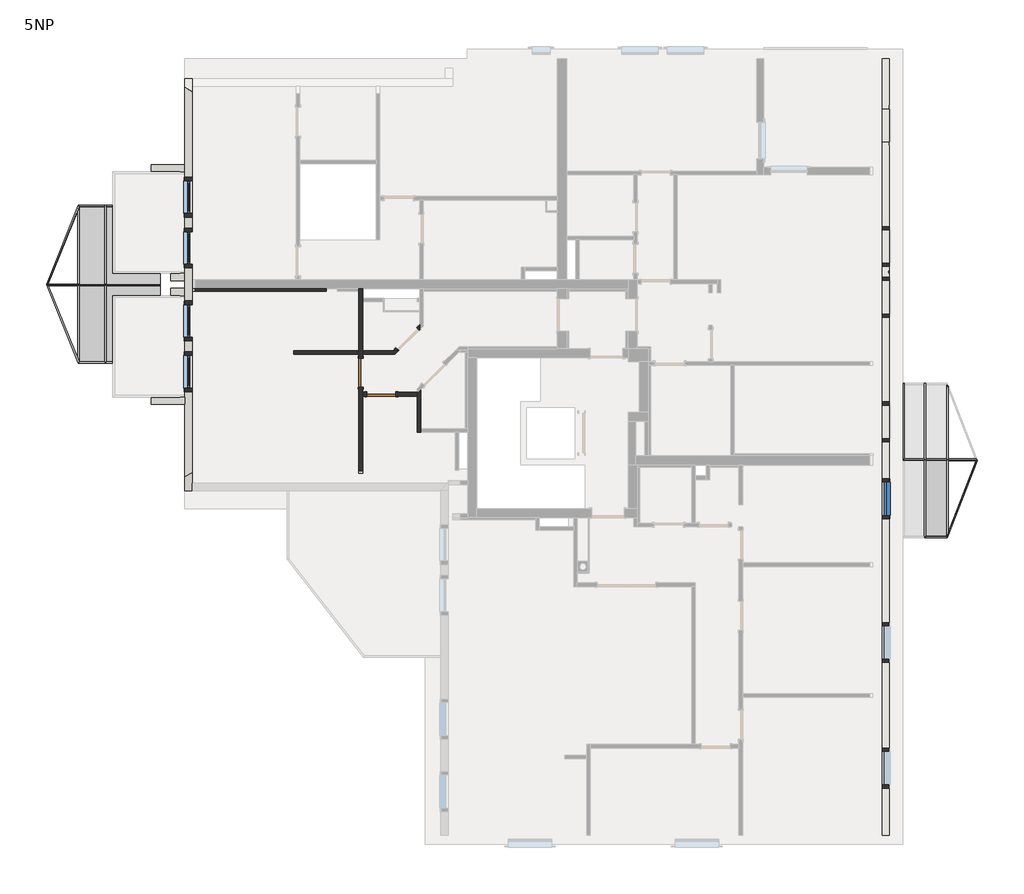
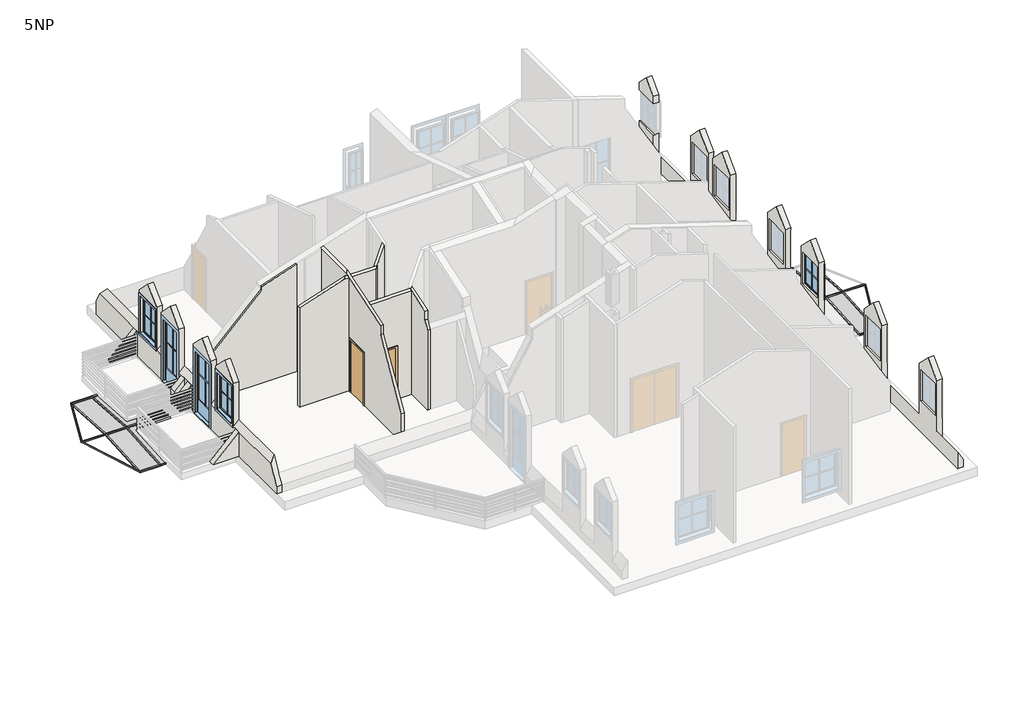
# One storey, part 2 of 4: 23 members, 13 walls, 5 plates, 5 windows, 2 doors.
"""IFC4 building model written with IfcOpenShell, lengths in millimetres."""

from ifc_helpers import new_model, si_unit, frame, origin, place, context, project, spatial, polyline, outline, extrude, faceted_brep, transform, mapped, element, save
from components import sd_800x2000_6a16926d, rectangular_mullion_40_40_c07c6f16, rectangular_mullion_40_40_c2750e26, rectangular_mullion_40_40_e33aa6b6, rectangular_mullion_40_40_65788530, rectangular_mullion_40_40_b48b72c3, rectangular_mullion_40_40_37a0d8a2, rectangular_mullion_40_40_590cdca0, rectangular_mullion_40_40_604e859a, rectangular_mullion_40_40_eb6bbd94, rectangular_mullion_40_40_bc456549, rectangular_mullion_40_40_ef17f03d, rectangular_mullion_40_40_d6f90903, rectangular_mullion_40_40_8bbfeddd, rectangular_mullion_40_40_5d815b55, rectangular_mullion_40_40_e56146ee, rectangular_mullion_40_40_14cc0a15, rectangular_mullion_40_40_f4a16c9e, rectangular_mullion_40_40_fbd32b48, rectangular_mullion_40_40_a7a4ca4f, system_panel_system_panel_37f665d0, system_panel_system_panel_7bef43a2, system_panel_system_panel_15dd2017, system_panel_system_panel_e4e5b0d0, system_panel_system_panel_76da7413, standard_window_with_mullions_4ddc0d11, standard_window_with_mullions_4f38f980, window_2_c3f3d78e, window_2_1320fec1

model = new_model("IFC4")

# Units and contexts
model_context = context("Model", 3, world=origin())
ifc_project = project(units=[si_unit("LENGTHUNIT", "METRE", prefix="MILLI")], contexts=[model_context])

# Site, building, storey
site = spatial("IfcSite", under=ifc_project)
building = spatial("IfcBuilding", under=site)
storey = spatial("IfcBuildingStorey", under=building, Name="5NP", Elevation=11800.0)

# Doors
placement = place(None, origin())
sd_800x2000_shape = sd_800x2000_6a16926d(model_context)
element("IfcDoor", 1, ObjectType="JednokridlePlne : SD 800x2000", at=placement, inside=storey, context=model_context, shape_type="MappedRepresentation", body=[
    mapped(sd_800x2000_shape, transform((-5807.1962165, 1908.3946515, 11800.0), x_axis=(0.0, -1.0, 0.0), y_axis=(1.0, 0.0, 0.0), z_axis=(0.0, 0.0, 1.0))),
])
element("IfcDoor", 2, ObjectType="JednokridlePlne : SD 800x2000", at=placement, inside=storey, context=model_context, shape_type="MappedRepresentation", body=[
    mapped(sd_800x2000_shape, transform((-5239.8211798, 1317.6290541, 11800.0), x_axis=(1.0, 0.0, 0.0), y_axis=(0.0, 1.0, 0.0), z_axis=(0.0, 0.0, 1.0))),
])

# Members
rectangular_mullion_40_40_shape = rectangular_mullion_40_40_c07c6f16(model_context)
element("IfcMember", 3, ObjectType="Rectangular Mullion : 40/40", at=placement, inside=storey, context=model_context, shape_type="MappedRepresentation", body=[
    mapped(rectangular_mullion_40_40_shape, transform((-12817.1962165, 4342.6290541, 11681.4726398), x_axis=(0.0, 0.9975640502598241, 0.06975647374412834), y_axis=(0.0, 0.06975647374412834, -0.9975640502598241), z_axis=(-1.0, 0.0, 0.0))),
])
rectangular_mullion_40_40_2_shape = rectangular_mullion_40_40_c2750e26(model_context)
element("IfcMember", 4, ObjectType="Rectangular Mullion : 40/40", at=placement, inside=storey, context=model_context, shape_type="MappedRepresentation", body=[
    mapped(rectangular_mullion_40_40_2_shape, transform((-13567.1962165, 4342.6290541, 11681.4726398), x_axis=(0.0, 0.9975640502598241, 0.06975647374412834), y_axis=(0.0, 0.06975647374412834, -0.9975640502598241), z_axis=(-1.0, 0.0, 0.0))),
])
rectangular_mullion_40_40_3_shape = rectangular_mullion_40_40_e33aa6b6(model_context)
element("IfcMember", 5, ObjectType="Rectangular Mullion : 40/40", at=placement, inside=storey, context=model_context, shape_type="MappedRepresentation", body=[
    mapped(rectangular_mullion_40_40_3_shape, transform((11184.5471242, -507.3709459, 11678.5944754), x_axis=(0.0, -0.9975640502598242, 0.06975647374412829), y_axis=(0.0, -0.06975647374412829, -0.9975640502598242), z_axis=(1.0, 0.0, 0.0))),
])
rectangular_mullion_40_40_4_shape = rectangular_mullion_40_40_65788530(model_context)
element("IfcMember", 6, ObjectType="Rectangular Mullion : 40/40", at=placement, inside=storey, context=model_context, shape_type="MappedRepresentation", body=[
    mapped(rectangular_mullion_40_40_4_shape, transform((10338.0299794, -507.3709459, 11678.5944754), x_axis=(0.0, -0.9975640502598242, 0.06975647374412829), y_axis=(0.0, -0.06975647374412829, -0.9975640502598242), z_axis=(1.0, 0.0, 0.0))),
])
rectangular_mullion_40_40_5_shape = rectangular_mullion_40_40_b48b72c3(model_context)
element("IfcMember", 7, ObjectType="Rectangular Mullion : 40/40", at=placement, inside=storey, context=model_context, shape_type="MappedRepresentation", body=[
    mapped(rectangular_mullion_40_40_5_shape, transform((9725.4168815, -507.3709459, 11678.5944754), x_axis=(0.0, -0.9975640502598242, 0.06975647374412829), y_axis=(0.0, -0.06975647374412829, -0.9975640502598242), z_axis=(1.0, 0.0, 0.0))),
])
rectangular_mullion_40_40_6_shape = rectangular_mullion_40_40_37a0d8a2(model_context)
element("IfcMember", 8, ObjectType="Rectangular Mullion : 40/40", at=placement, inside=storey, context=model_context, shape_type="MappedRepresentation", body=[
    mapped(rectangular_mullion_40_40_6_shape, transform((11184.5112279, -507.3709532, 11678.5944749), x_axis=(0.9999999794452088, 0.00020226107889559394, 1.4143472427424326e-05), y_axis=(0.0, 0.06975647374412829, -0.9975640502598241), z_axis=(-0.000202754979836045, 0.9975640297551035, 0.06975647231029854))),
])
rectangular_mullion_40_40_7_shape = rectangular_mullion_40_40_590cdca0(model_context)
element("IfcMember", 9, ObjectType="Rectangular Mullion : 40/40", at=placement, inside=storey, context=model_context, shape_type="MappedRepresentation", body=[
    mapped(rectangular_mullion_40_40_7_shape, transform((-12837.1962165, 4342.6290541, 11681.4726398), x_axis=(1.0, 0.0, 0.0), y_axis=(0.0, 0.06975647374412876, -0.997564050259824), z_axis=(0.0, 0.997564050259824, 0.06975647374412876))),
])
rectangular_mullion_40_40_8_shape = rectangular_mullion_40_40_604e859a(model_context)
element("IfcMember", 10, ObjectType="Rectangular Mullion : 40/40", at=placement, inside=storey, context=model_context, shape_type="MappedRepresentation", body=[
    mapped(rectangular_mullion_40_40_8_shape, transform((-13587.1962165, 4342.6290541, 11681.4726398), x_axis=(-1.0, 0.0, 0.0), y_axis=(0.0, -0.06975647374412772, -0.9975640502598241), z_axis=(0.0, -0.9975640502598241, 0.06975647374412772))),
])
rectangular_mullion_40_40_9_shape = rectangular_mullion_40_40_eb6bbd94(model_context)
element("IfcMember", 11, ObjectType="Rectangular Mullion : 40/40", at=placement, inside=storey, context=model_context, shape_type="MappedRepresentation", body=[
    mapped(rectangular_mullion_40_40_9_shape, transform((-13587.1962165, 6517.6290541, 11529.3818239), x_axis=(0.0, 0.9975640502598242, -0.06975647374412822), y_axis=(0.0, -0.06975647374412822, -0.9975640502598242), z_axis=(-1.0, 0.0, 0.0))),
])
element("IfcMember", 12, ObjectType="Rectangular Mullion : 40/40", at=placement, inside=storey, context=model_context, shape_type="MappedRepresentation", body=[
    mapped(rectangular_mullion_40_40_shape, transform((-12817.1962165, 6517.6290541, 11529.3818239), x_axis=(0.0, 0.9975640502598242, -0.06975647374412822), y_axis=(0.0, -0.06975647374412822, -0.9975640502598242), z_axis=(-1.0, 0.0, 0.0))),
])
element("IfcMember", 13, ObjectType="Rectangular Mullion : 40/40", at=placement, inside=storey, context=model_context, shape_type="MappedRepresentation", body=[
    mapped(rectangular_mullion_40_40_shape, transform((-11337.1962165, 2167.6290541, 11529.3818239), x_axis=(0.0, -0.9975640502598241, -0.06975647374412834), y_axis=(0.0, 0.06975647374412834, -0.9975640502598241), z_axis=(1.0, 0.0, 0.0))),
])
rectangular_mullion_40_40_10_shape = rectangular_mullion_40_40_bc456549(model_context)
element("IfcMember", 14, ObjectType="Rectangular Mullion : 40/40", at=placement, inside=storey, context=model_context, shape_type="MappedRepresentation", body=[
    mapped(rectangular_mullion_40_40_10_shape, transform((-12857.1962165, 2167.6290541, 11529.3818239), x_axis=(0.0, -0.9975640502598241, -0.06975647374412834), y_axis=(0.0, 0.06975647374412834, -0.9975640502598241), z_axis=(1.0, 0.0, 0.0))),
])
rectangular_mullion_40_40_11_shape = rectangular_mullion_40_40_ef17f03d(model_context)
element("IfcMember", 15, ObjectType="Rectangular Mullion : 40/40", at=placement, inside=storey, context=model_context, shape_type="MappedRepresentation", body=[
    mapped(rectangular_mullion_40_40_11_shape, transform((-13587.2318596, 2167.5948517, 11529.3794322), x_axis=(-0.7206941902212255, -0.6915643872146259, -0.048358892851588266), y_axis=(0.0, 0.06975647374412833, -0.997564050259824), z_axis=(0.6932531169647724, -0.7189386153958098, -0.05027308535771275))),
])
rectangular_mullion_40_40_12_shape = rectangular_mullion_40_40_d6f90903(model_context)
element("IfcMember", 16, ObjectType="Rectangular Mullion : 40/40", at=placement, inside=storey, context=model_context, shape_type="MappedRepresentation", body=[
    mapped(rectangular_mullion_40_40_12_shape, transform((-14465.3914485, 4342.6290633, 11681.4726392), x_axis=(-0.999999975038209, -0.0002228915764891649, 1.5586097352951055e-05), y_axis=(0.0, -0.06975647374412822, -0.9975640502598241), z_axis=(0.0002234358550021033, -0.9975640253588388, 0.0697564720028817))),
])
rectangular_mullion_40_40_13_shape = rectangular_mullion_40_40_8bbfeddd(model_context)
element("IfcMember", 17, ObjectType="Rectangular Mullion : 40/40", at=placement, inside=storey, context=model_context, shape_type="MappedRepresentation", body=[
    mapped(rectangular_mullion_40_40_13_shape, transform((10358.0299794, -507.3709459, 11678.5944754), x_axis=(1.0, 0.0, 0.0), y_axis=(0.0, 0.06975647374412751, -0.9975640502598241), z_axis=(0.0, 0.997564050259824, 0.0697564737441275))),
])
rectangular_mullion_40_40_14_shape = rectangular_mullion_40_40_5d815b55(model_context)
element("IfcMember", 18, ObjectType="Rectangular Mullion : 40/40", at=placement, inside=storey, context=model_context, shape_type="MappedRepresentation", body=[
    mapped(rectangular_mullion_40_40_14_shape, transform((9745.4168815, -507.3709459, 11678.5944754), x_axis=(-1.0, 0.0, 0.0), y_axis=(0.0, -0.0697564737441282, -0.9975640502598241), z_axis=(0.0, -0.997564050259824, 0.06975647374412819))),
])
rectangular_mullion_40_40_15_shape = rectangular_mullion_40_40_e56146ee(model_context)
element("IfcMember", 19, ObjectType="Rectangular Mullion : 40/40", at=placement, inside=storey, context=model_context, shape_type="MappedRepresentation", body=[
    mapped(rectangular_mullion_40_40_15_shape, transform((10358.0299794, -2632.3709459, 11530.0), x_axis=(0.0, -0.9975640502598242, -0.06975647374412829), y_axis=(0.0, 0.06975647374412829, -0.9975640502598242), z_axis=(1.0, 0.0, 0.0))),
])
rectangular_mullion_40_40_16_shape = rectangular_mullion_40_40_14cc0a15(model_context)
element("IfcMember", 20, ObjectType="Rectangular Mullion : 40/40", at=placement, inside=storey, context=model_context, shape_type="MappedRepresentation", body=[
    mapped(rectangular_mullion_40_40_16_shape, transform((9132.8037835, -507.3709459, 11678.5944754), x_axis=(-1.0, 0.0, 0.0), y_axis=(0.0, -0.0697564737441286, -0.9975640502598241), z_axis=(0.0, -0.997564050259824, 0.06975647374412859))),
])
element("IfcMember", 21, ObjectType="Rectangular Mullion : 40/40", at=placement, inside=storey, context=model_context, shape_type="MappedRepresentation", body=[
    mapped(rectangular_mullion_40_40_7_shape, transform((-12837.1962165, 4342.6290541, 11681.4726398), x_axis=(-1.0, 0.0, 0.0), y_axis=(0.0, -0.06975647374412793, -0.9975640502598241), z_axis=(0.0, -0.997564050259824, 0.06975647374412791))),
])
rectangular_mullion_40_40_17_shape = rectangular_mullion_40_40_f4a16c9e(model_context)
element("IfcMember", 22, ObjectType="Rectangular Mullion : 40/40", at=placement, inside=storey, context=model_context, shape_type="MappedRepresentation", body=[
    mapped(rectangular_mullion_40_40_17_shape, transform((-13587.1962165, 4342.6290541, 11681.4726398), x_axis=(1.0, 0.0, 0.0), y_axis=(0.0, 0.06975647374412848, -0.9975640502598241), z_axis=(0.0, 0.997564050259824, 0.06975647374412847))),
])
rectangular_mullion_40_40_18_shape = rectangular_mullion_40_40_fbd32b48(model_context)
element("IfcMember", 23, ObjectType="Rectangular Mullion : 40/40", at=placement, inside=storey, context=model_context, shape_type="MappedRepresentation", body=[
    mapped(rectangular_mullion_40_40_18_shape, transform((-14465.4329195, 4342.6290541, 11681.4726398), x_axis=(0.0, 0.9975640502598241, 0.06975647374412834), y_axis=(0.0, 0.06975647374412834, -0.9975640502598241), z_axis=(-1.0, 0.0, 0.0))),
])
rectangular_mullion_40_40_19_shape = rectangular_mullion_40_40_a7a4ca4f(model_context)
element("IfcMember", 24, ObjectType="Rectangular Mullion : 40/40", at=placement, inside=storey, context=model_context, shape_type="MappedRepresentation", body=[
    mapped(rectangular_mullion_40_40_19_shape, transform((10358.0299794, -507.3709459, 11678.5944754), x_axis=(-1.0, 0.0, 0.0), y_axis=(0.0, -0.06975647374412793, -0.9975640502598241), z_axis=(0.0, -0.9975640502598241, 0.06975647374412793))),
])
element("IfcMember", 25, ObjectType="Rectangular Mullion : 40/40", at=placement, inside=storey, context=model_context, shape_type="MappedRepresentation", body=[
    mapped(rectangular_mullion_40_40_14_shape, transform((9745.4168815, -507.3709459, 11678.5944754), x_axis=(1.0, 0.0, 0.0), y_axis=(0.0, 0.06975647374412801, -0.9975640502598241), z_axis=(0.0, 0.997564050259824, 0.069756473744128))),
])

# Plates
system_panel_system_panel_shape = system_panel_system_panel_37f665d0(model_context)
element("IfcPlate", 26, ObjectType="System Panel : System Panel", at=placement, inside=storey, context=model_context, shape_type="MappedRepresentation", body=[
    mapped(system_panel_system_panel_shape, transform((-12077.1962165, 6477.7264921, 11532.1720828), x_axis=(-1.0, 0.0, 0.0), y_axis=(0.0, -0.06975647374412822, -0.9975640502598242), z_axis=(0.0, -0.9975640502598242, 0.06975647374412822))),
])
system_panel_system_panel_2_shape = system_panel_system_panel_7bef43a2(model_context)
element("IfcPlate", 27, ObjectType="System Panel : System Panel", at=placement, inside=storey, context=model_context, shape_type="MappedRepresentation", body=[
    mapped(system_panel_system_panel_2_shape, transform((-12077.1962165, 2207.5316161, 11532.1720828), x_axis=(1.0, 0.0, 0.0), y_axis=(0.0, 0.06975647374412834, -0.9975640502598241), z_axis=(0.0, 0.9975640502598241, 0.06975647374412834))),
])
system_panel_system_panel_3_shape = system_panel_system_panel_15dd2017(model_context)
element("IfcPlate", 28, ObjectType="System Panel : System Panel", at=placement, inside=storey, context=model_context, shape_type="MappedRepresentation", body=[
    mapped(system_panel_system_panel_3_shape, transform((-13212.1962165, 2207.5316161, 11532.1720828), x_axis=(1.0, 0.0, 0.0), y_axis=(0.0, 0.06975647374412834, -0.9975640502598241), z_axis=(0.0, 0.9975640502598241, 0.06975647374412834))),
])
system_panel_system_panel_4_shape = system_panel_system_panel_e4e5b0d0(model_context)
element("IfcPlate", 29, ObjectType="System Panel : System Panel", at=placement, inside=storey, context=model_context, shape_type="MappedRepresentation", body=[
    mapped(system_panel_system_panel_4_shape, transform((-13212.1962165, 6477.7264921, 11532.1720828), x_axis=(-1.0, 0.0, 0.0), y_axis=(0.0, -0.06975647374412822, -0.9975640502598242), z_axis=(0.0, -0.9975640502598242, 0.06975647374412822))),
])
system_panel_system_panel_5_shape = system_panel_system_panel_76da7413(model_context)
element("IfcPlate", 30, ObjectType="System Panel : System Panel", at=placement, inside=storey, context=model_context, shape_type="MappedRepresentation", body=[
    mapped(system_panel_system_panel_5_shape, transform((10051.7234305, -2592.4683839, 11532.7902589), x_axis=(1.0, 0.0, 0.0), y_axis=(0.0, 0.06975647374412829, -0.9975640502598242), z_axis=(0.0, 0.9975640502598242, 0.06975647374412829))),
])

# Walls
element("IfcWall", 31, ObjectType="Exterior - 150+50mm", at=placement, inside=storey, context=model_context, shape_type="Brep", body=[
    faceted_brep([(-10656.4352243, -1338.1208451, 11800.0), (-10656.4352243, -1338.1208451, 12079.795831), (-10656.4352243, -962.2859339, 12730.7609923), (-10656.4352243, 1037.6290541, 12730.7609923), (-10656.4352243, 1237.6290541, 12730.7609923), (-10656.4352243, 1387.6290541, 12730.7609923), (-10656.4352243, 1387.6290541, 14387.8679656), (-10656.4352243, 1937.6290541, 14937.8679656), (-10656.4352243, 2487.6290541, 14387.8679656), (-10656.4352243, 2487.6290541, 12730.7609923), (-10656.4352243, 2787.6290541, 12730.7609923), (-10656.4352243, 2787.6290541, 14387.8679656), (-10656.4352243, 3337.6290541, 14937.8679656), (-10656.4352243, 3887.6290541, 14387.8679656), (-10656.4352243, 3887.6290541, 12730.7609923), (-10656.4352243, 4037.6290541, 12730.7609923), (-10656.4352243, 4237.6290541, 12730.7609923), (-10656.4352243, 4447.6290541, 12730.7609923), (-10656.4352243, 4647.6290541, 12730.7609923), (-10656.4352243, 4797.6290541, 12730.7609923), (-10656.4352243, 4797.6290541, 14387.8679656), (-10656.4352243, 5347.6290541, 14937.8679656), (-10656.4352243, 5897.6290541, 14387.8679656), (-10656.4352243, 5897.6290541, 12730.7609923), (-10656.4352243, 6197.6290541, 12730.7609923), (-10656.4352243, 6197.6290541, 14387.8679656), (-10656.4352243, 6747.6290541, 14937.8679656), (-10656.4352243, 7297.6290541, 14387.8679656), (-10656.4352243, 7297.6290541, 12730.7609923), (-10656.4352243, 7447.6290541, 12730.7609923), (-10656.4352243, 7647.6290541, 12730.7609923), (-10656.4352243, 9771.3426296, 12730.7609923), (-10656.4352243, 10007.6290541, 12321.5009), (-10656.4352243, 10007.6290541, 11800.0), (-10656.4352243, 7647.6290541, 11800.0), (-10656.4352243, 7447.6290541, 11800.0), (-10656.4352243, 5797.6290541, 11800.0), (-10656.4352243, 5797.6290541, 14200.0), (-10656.4352243, 4897.6290541, 14200.0), (-10656.4352243, 4897.6290541, 11800.0), (-10656.4352243, 4647.6290541, 11800.0), (-10656.4352243, 4447.6290541, 11800.0), (-10656.4352243, 4237.6290541, 11800.0), (-10656.4352243, 4037.6290541, 11800.0), (-10656.4352243, 3782.6290541, 11800.0), (-10656.4352243, 3782.6290541, 14200.0), (-10656.4352243, 2882.6290541, 14200.0), (-10656.4352243, 2882.6290541, 11800.0), (-10656.4352243, 1237.6290541, 11800.0), (-10656.4352243, 1037.6290541, 11800.0), (-10656.4352243, 6297.6290541, 14200.0), (-10656.4352243, 6297.6290541, 12800.0), (-10656.4352243, 7197.6290541, 12800.0), (-10656.4352243, 7197.6290541, 14200.0), (-10656.4352243, 1487.6290541, 12800.0), (-10656.4352243, 2387.6290541, 12800.0), (-10656.4352243, 2387.6290541, 14200.0), (-10656.4352243, 1487.6290541, 14200.0), (-10456.4352243, -1338.1208451, 12079.795831), (-10456.4352243, -1338.1208451, 11800.0), (-10456.4352243, -1138.1208451, 11800.0), (-10456.4352243, 2882.6290541, 11800.0), (-10456.4352243, 2882.6290541, 14200.0), (-10456.4352243, 3782.6290541, 14200.0), (-10456.4352243, 3782.6290541, 11800.0), (-10456.4352243, 4152.6290541, 11800.0), (-10456.4352243, 4217.6290541, 11800.0), (-10456.4352243, 4467.6290541, 11800.0), (-10456.4352243, 4897.6290541, 11800.0), (-10456.4352243, 4897.6290541, 14200.0), (-10456.4352243, 5797.6290541, 14200.0), (-10456.4352243, 5797.6290541, 11800.0), (-10456.4352243, 9807.6290541, 11800.0), (-10456.4352243, 10007.6290541, 11800.0), (-10456.4352243, 10007.6290541, 12321.5009), (-10456.4352243, 9807.6290541, 12667.9110615), (-10456.4352243, 9655.8725758, 12930.7609923), (-10456.4352243, 7297.6290541, 12930.7609923), (-10456.4352243, 7297.6290541, 14387.8679656), (-10456.4352243, 6747.6290541, 14937.8679656), (-10456.4352243, 6197.6290541, 14387.8679656), (-10456.4352243, 6197.6290541, 12930.7609923), (-10456.4352243, 5897.6290541, 12930.7609923), (-10456.4352243, 5897.6290541, 14387.8679656), (-10456.4352243, 5347.6290541, 14937.8679656), (-10456.4352243, 4797.6290541, 14387.8679656), (-10456.4352243, 4797.6290541, 12930.7609923), (-10456.4352243, 4467.6290541, 12930.7609923), (-10456.4352243, 4217.6290541, 12930.7609923), (-10456.4352243, 4152.6290541, 12930.7609923), (-10456.4352243, 3887.6290541, 12930.7609923), (-10456.4352243, 3887.6290541, 14387.8679656), (-10456.4352243, 3337.6290541, 14937.8679656), (-10456.4352243, 2787.6290541, 14387.8679656), (-10456.4352243, 2787.6290541, 12930.7609923), (-10456.4352243, 2487.6290541, 12930.7609923), (-10456.4352243, 2487.6290541, 14387.8679656), (-10456.4352243, 1937.6290541, 14937.8679656), (-10456.4352243, 1387.6290541, 14387.8679656), (-10456.4352243, 1387.6290541, 12930.7609923), (-10456.4352243, -846.8158801, 12930.7609923), (-10456.4352243, -1138.1208451, 12426.2059925), (-10456.4352243, 6297.6290541, 12800.0), (-10456.4352243, 6297.6290541, 14200.0), (-10456.4352243, 7197.6290541, 14200.0), (-10456.4352243, 7197.6290541, 12800.0), (-10456.4352243, 1487.6290541, 12800.0), (-10456.4352243, 1487.6290541, 14200.0), (-10456.4352243, 2387.6290541, 14200.0), (-10456.4352243, 2387.6290541, 12800.0)], [[[0, 1, 2, 3, 4, 5, 6, 7, 8, 9, 10, 11, 12, 13, 14, 15, 16, 17, 18, 19, 20, 21, 22, 23, 24, 25, 26, 27, 28, 29, 30, 31, 32, 33, 34, 35, 36, 37, 38, 39, 40, 41, 42, 43, 44, 45, 46, 47, 48, 49], [50, 51, 52, 53], [54, 55, 56, 57]], [[58, 59, 60, 61, 62, 63, 64, 65, 66, 67, 68, 69, 70, 71, 72, 73, 74, 75, 76, 77, 78, 79, 80, 81, 82, 83, 84, 85, 86, 87, 88, 89, 90, 91, 92, 93, 94, 95, 96, 97, 98, 99, 100, 101], [102, 103, 104, 105], [106, 107, 108, 109]], [[59, 0, 49, 48, 47, 61, 60]], [[33, 73, 72, 71, 36, 35, 34]], [[39, 68, 67, 66, 65, 64, 44, 43, 42, 41, 40]], [[1, 0, 59, 58]], [[33, 32, 74, 73]], [[98, 6, 5, 99]], [[8, 96, 95, 9]], [[93, 11, 10, 94]], [[13, 91, 90, 14]], [[85, 20, 19, 86]], [[22, 83, 82, 23]], [[80, 25, 24, 81]], [[27, 78, 77, 28]], [[28, 77, 76, 31, 30, 29]], [[1, 58, 101, 100, 2]], [[74, 32, 31, 76, 75]], [[24, 23, 82, 81]], [[14, 90, 89, 88, 87, 86, 19, 18, 17, 16, 15]], [[10, 9, 95, 94]], [[99, 5, 4, 3, 2, 100]], [[83, 22, 21, 84]], [[20, 85, 84, 21]], [[78, 27, 26, 79]], [[25, 80, 79, 26]], [[91, 13, 12, 92]], [[11, 93, 92, 12]], [[96, 8, 7, 97]], [[6, 98, 97, 7]], [[38, 69, 68, 39]], [[69, 38, 37, 70]], [[70, 37, 36, 71]], [[102, 51, 50, 103]], [[103, 50, 53, 104]], [[104, 53, 52, 105]], [[51, 102, 105, 52]], [[63, 45, 44, 64]], [[45, 63, 62, 46]], [[46, 62, 61, 47]], [[107, 106, 54, 57]], [[108, 107, 57, 56]], [[109, 108, 56, 55]], [[106, 109, 55, 54]]]),
])
element("IfcWall", 32, ObjectType="Exterior - 150+50mm", at=placement, inside=storey, context=model_context, shape_type="SweptSolid", body=[
    extrude(outline(polyline([(11800.0, -10656.4352243), (12730.7609923, -10656.4352243), (11800.0, -11587.1962165), (11800.0, -10656.4352243)])), frame((0.0, 7447.6290541, 0.0), z_axis=(0.0, 1.0, 0.0), x_axis=(0.0, 0.0, 1.0)), (0.0, 0.0, 1.0), 200.0),
])
element("IfcWall", 33, ObjectType="Exterior - 150+50mm", at=placement, inside=storey, context=model_context, shape_type="Brep", body=[
    faceted_brep([(8557.3155772, 8275.6927772, 12437.9668213), (8557.3155772, 8275.6927772, 13000.0), (8557.3155772, 9175.6927772, 13000.0), (8557.3155772, 9175.6927772, 12437.9668213), (8557.3155772, 9275.6927772, 12437.9668213), (8557.3155772, 10567.6290541, 12437.9668213), (8557.3155772, 10567.6290541, 11800.0), (8557.3155772, -10832.3709459, 11800.0), (8557.3155772, -10832.3709459, 12437.9668213), (8557.3155772, -9532.3709459, 12437.9668213), (8557.3155772, -9532.3709459, 14387.8679656), (8557.3155772, -8982.3709459, 14937.8679656), (8557.3155772, -8432.3709459, 14387.8679656), (8557.3155772, -8432.3709459, 12437.9668213), (8557.3155772, -6074.0530367, 12437.9668213), (8557.3155772, -6074.0530367, 14387.8679656), (8557.3155772, -5524.0530367, 14937.8679656), (8557.3155772, -4974.0530367, 14387.8679656), (8557.3155772, -4974.0530367, 12437.9668213), (8557.3155772, -2113.5367865, 12437.9668213), (8557.3155772, -2113.5367865, 14387.8679656), (8557.3155772, -1563.5367865, 14937.8679656), (8557.3155772, -1013.5367865, 14387.8679656), (8557.3155772, -1013.5367865, 12437.9668213), (8557.3155772, 5.9947187, 12437.9668213), (8557.3155772, 5.9947187, 14387.8679656), (8557.3155772, 555.9947187, 14937.8679656), (8557.3155772, 1105.9947187, 14387.8679656), (8557.3155772, 1105.9947187, 12437.9668213), (8557.3155772, 3438.4530256, 12437.9668213), (8557.3155772, 3438.4530256, 14387.8679656), (8557.3155772, 3988.4530256, 14937.8679656), (8557.3155772, 4538.4530256, 14387.8679656), (8557.3155772, 4538.4530256, 12437.9668213), (8557.3155772, 4838.4530256, 12437.9668213), (8557.3155772, 4838.4530256, 14387.8679656), (8557.3155772, 5388.4530256, 14937.8679656), (8557.3155772, 5938.4530256, 14387.8679656), (8557.3155772, 5938.4530256, 12437.9668213), (8557.3155772, 8175.6927772, 12437.9668213), (8557.3155772, -8532.3709459, 13000.0), (8557.3155772, -8532.3709459, 14200.0), (8557.3155772, -9432.3709459, 14200.0), (8557.3155772, -9432.3709459, 13000.0), (8557.3155772, -5074.0530367, 13000.0), (8557.3155772, -5074.0530367, 14200.0), (8557.3155772, -5974.0530367, 14200.0), (8557.3155772, -5974.0530367, 13000.0), (8557.3155772, -1113.5367865, 13000.0), (8557.3155772, -1113.5367865, 14200.0), (8557.3155772, -2013.5367865, 14200.0), (8557.3155772, -2013.5367865, 13000.0), (8557.3155772, 1005.9947187, 13000.0), (8557.3155772, 1005.9947187, 14200.0), (8557.3155772, 105.9947187, 14200.0), (8557.3155772, 105.9947187, 13000.0), (8557.3155772, 5838.4530256, 13000.0), (8557.3155772, 5838.4530256, 14200.0), (8557.3155772, 4938.4530256, 14200.0), (8557.3155772, 4938.4530256, 13000.0), (8557.3155772, 4438.4530256, 13000.0), (8557.3155772, 4438.4530256, 14200.0), (8557.3155772, 3538.4530256, 14200.0), (8557.3155772, 3538.4530256, 13000.0), (8757.3155772, 9175.6927772, 13000.0), (8757.3155772, 8275.6927772, 13000.0), (8757.3155772, 8275.6927772, 12091.5566597), (8757.3155772, 5938.4530256, 12091.5566597), (8757.3155772, 5938.4530256, 14387.8679656), (8757.3155772, 5388.4530256, 14937.8679656), (8757.3155772, 4838.4530256, 14387.8679656), (8757.3155772, 4838.4530256, 12091.5566597), (8757.3155772, 4746.8963658, 12091.5566597), (8757.3155772, 4688.4530256, 12150.0), (8757.3155772, 4630.0096853, 12091.5566597), (8757.3155772, 4538.4530256, 12091.5566597), (8757.3155772, 4538.4530256, 14387.8679656), (8757.3155772, 3988.4530256, 14937.8679656), (8757.3155772, 3438.4530256, 14387.8679656), (8757.3155772, 3438.4530256, 12091.5566597), (8757.3155772, 1105.9947187, 12091.5566597), (8757.3155772, 1105.9947187, 14387.8679656), (8757.3155772, 555.9947187, 14937.8679656), (8757.3155772, 5.9947187, 14387.8679656), (8757.3155772, 5.9947187, 12091.5566597), (8757.3155772, -1013.5367865, 12091.5566597), (8757.3155772, -1013.5367865, 14387.8679656), (8757.3155772, -1563.5367865, 14937.8679656), (8757.3155772, -2113.5367865, 14387.8679656), (8757.3155772, -2113.5367865, 12091.5566597), (8757.3155772, -4974.0530367, 12091.5566597), (8757.3155772, -4974.0530367, 14387.8679656), (8757.3155772, -5524.0530367, 14937.8679656), (8757.3155772, -6074.0530367, 14387.8679656), (8757.3155772, -6074.0530367, 12091.5566597), (8757.3155772, -8432.3709459, 12091.5566597), (8757.3155772, -8432.3709459, 14387.8679656), (8757.3155772, -8982.3709459, 14937.8679656), (8757.3155772, -9532.3709459, 14387.8679656), (8757.3155772, -9532.3709459, 12091.5566597), (8757.3155772, -10832.3709459, 12091.5566597), (8757.3155772, -10832.3709459, 11800.0), (8757.3155772, 10567.6290541, 11800.0), (8757.3155772, 10567.6290541, 12091.5566597), (8757.3155772, 9175.6927772, 12091.5566597), (8757.3155772, -8532.3709459, 13000.0), (8757.3155772, -9432.3709459, 13000.0), (8757.3155772, -9432.3709459, 14200.0), (8757.3155772, -8532.3709459, 14200.0), (8757.3155772, -5074.0530367, 13000.0), (8757.3155772, -5974.0530367, 13000.0), (8757.3155772, -5974.0530367, 14200.0), (8757.3155772, -5074.0530367, 14200.0), (8757.3155772, -1113.5367865, 13000.0), (8757.3155772, -2013.5367865, 13000.0), (8757.3155772, -2013.5367865, 14200.0), (8757.3155772, -1113.5367865, 14200.0), (8757.3155772, 1005.9947187, 13000.0), (8757.3155772, 105.9947187, 13000.0), (8757.3155772, 105.9947187, 14200.0), (8757.3155772, 1005.9947187, 14200.0), (8757.3155772, 5838.4530256, 13000.0), (8757.3155772, 4938.4530256, 13000.0), (8757.3155772, 4938.4530256, 14200.0), (8757.3155772, 5838.4530256, 14200.0), (8757.3155772, 4438.4530256, 13000.0), (8757.3155772, 3538.4530256, 13000.0), (8757.3155772, 3538.4530256, 14200.0), (8757.3155772, 4438.4530256, 14200.0), (8723.5732989, 4688.4530256, 12150.0)], [[[0, 1, 2, 3, 4, 5, 6, 7, 8, 9, 10, 11, 12, 13, 14, 15, 16, 17, 18, 19, 20, 21, 22, 23, 24, 25, 26, 27, 28, 29, 30, 31, 32, 33, 34, 35, 36, 37, 38, 39], [40, 41, 42, 43], [44, 45, 46, 47], [48, 49, 50, 51], [52, 53, 54, 55], [56, 57, 58, 59], [60, 61, 62, 63]], [[64, 65, 66, 67, 68, 69, 70, 71, 72, 73, 74, 75, 76, 77, 78, 79, 80, 81, 82, 83, 84, 85, 86, 87, 88, 89, 90, 91, 92, 93, 94, 95, 96, 97, 98, 99, 100, 101, 102, 103, 104], [105, 106, 107, 108], [109, 110, 111, 112], [113, 114, 115, 116], [117, 118, 119, 120], [121, 122, 123, 124], [125, 126, 127, 128]], [[7, 6, 102, 101]], [[8, 7, 101, 100]], [[6, 5, 103, 102]], [[64, 104, 3, 2]], [[66, 65, 1, 0]], [[17, 91, 90, 18]], [[93, 15, 14, 94]], [[98, 10, 9, 99]], [[12, 96, 95, 13]], [[88, 20, 19, 89]], [[22, 86, 85, 23]], [[83, 25, 24, 84]], [[27, 81, 80, 28]], [[78, 30, 29, 79]], [[32, 76, 75, 33]], [[70, 35, 34, 71]], [[37, 68, 67, 38]], [[12, 11, 97, 96]], [[11, 10, 98, 97]], [[17, 16, 92, 91]], [[16, 15, 93, 92]], [[22, 21, 87, 86]], [[21, 20, 88, 87]], [[27, 26, 82, 81]], [[26, 25, 83, 82]], [[32, 31, 77, 76]], [[31, 30, 78, 77]], [[37, 36, 69, 68]], [[36, 35, 70, 69]], [[9, 8, 100, 99]], [[74, 73, 129]], [[73, 72, 129]], [[14, 13, 95, 94]], [[19, 18, 90, 89]], [[24, 23, 85, 84]], [[29, 28, 80, 79]], [[34, 33, 75, 74, 129, 72, 71]], [[0, 39, 38, 67, 66]], [[5, 4, 3, 104, 103]], [[41, 40, 105, 108]], [[42, 41, 108, 107]], [[43, 42, 107, 106]], [[40, 43, 106, 105]], [[45, 44, 109, 112]], [[46, 45, 112, 111]], [[47, 46, 111, 110]], [[44, 47, 110, 109]], [[49, 48, 113, 116]], [[50, 49, 116, 115]], [[51, 50, 115, 114]], [[48, 51, 114, 113]], [[53, 52, 117, 120]], [[54, 53, 120, 119]], [[55, 54, 119, 118]], [[52, 55, 118, 117]], [[57, 56, 121, 124]], [[58, 57, 124, 123]], [[59, 58, 123, 122]], [[56, 59, 122, 121]], [[61, 60, 125, 128]], [[62, 61, 128, 127]], [[63, 62, 127, 126]], [[60, 63, 126, 125]], [[2, 1, 65, 64]]]),
    faceted_brep([(8557.3155772, 8275.6927772, 14200.0), (8557.3155772, 8275.6927772, 14487.8679656), (8557.3155772, 8725.6927772, 14937.8679656), (8557.3155772, 9175.6927772, 14487.8679656), (8557.3155772, 9175.6927772, 14200.0), (8757.3155772, 8275.6927772, 14200.0), (8757.3155772, 9175.6927772, 14200.0), (8757.3155772, 9175.6927772, 14487.8679656), (8757.3155772, 8725.6927772, 14937.8679656), (8757.3155772, 8275.6927772, 14487.8679656)], [[[0, 1, 2, 3, 4]], [[5, 6, 7, 8, 9]], [[7, 6, 4, 3]], [[5, 9, 1, 0]], [[3, 2, 8, 7]], [[2, 1, 9, 8]], [[0, 4, 6, 5]]]),
])
element("IfcWall", 34, ObjectType="Exterior - 200mm", at=placement, inside=storey, context=model_context, shape_type="SweptSolid", body=[
    extrude(outline(polyline([(11800.0, -10656.4352243), (12730.7609923, -10656.4352243), (12350.0, -11037.1962165), (11800.0, -11037.1962165), (11800.0, -10656.4352243)])), frame((0.0, 4447.6290541, 0.0), z_axis=(0.0, 1.0, 0.0), x_axis=(0.0, 0.0, 1.0)), (0.0, 0.0, 1.0), 200.0),
])
element("IfcWall", 35, ObjectType="Exterior - 200mm", at=placement, inside=storey, context=model_context, shape_type="SweptSolid", body=[
    extrude(outline(polyline([(11800.0, -10656.4352243), (12730.7609923, -10656.4352243), (12350.0, -11037.1962165), (11800.0, -11037.1962165), (11800.0, -10656.4352243)])), frame((0.0, 4037.6290541, 0.0), z_axis=(0.0, 1.0, 0.0), x_axis=(0.0, 0.0, 1.0)), (0.0, 0.0, 1.0), 200.0),
])
element("IfcWall", 36, ObjectType="Exterior - 200mm", at=placement, inside=storey, context=model_context, shape_type="SweptSolid", body=[
    extrude(outline(polyline([(11800.0, -10656.4352243), (12730.7609923, -10656.4352243), (11800.0, -11587.1962165), (11800.0, -10656.4352243)])), frame((0.0, 1037.6290541, 0.0), z_axis=(0.0, 1.0, 0.0), x_axis=(0.0, 0.0, 1.0)), (0.0, 0.0, 1.0), 200.0),
])
element("IfcWall", 37, ObjectType="Interior - 100mm", at=placement, inside=storey, context=model_context, shape_type="Brep", body=[
    faceted_brep([(-5857.1962165, 1508.3946515, 13800.0), (-5857.1962165, 1508.3946515, 11800.0), (-5857.1962165, -857.3709459, 11800.0), (-5857.1962165, -857.3709459, 12912.479082), (-5857.1962165, 437.0391776, 15154.4631818), (-5857.1962165, 437.0391776, 15495.936781), (-5857.1962165, 2417.6290541, 16139.4694421), (-5857.1962165, 2517.6290541, 16171.9614117), (-5857.1962165, 2601.6928783, 16199.2754039), (-5857.1962165, 4152.6290541, 16199.2754039), (-5857.1962165, 4217.6290541, 16199.2754039), (-5857.1962165, 4217.6290541, 11800.0), (-5857.1962165, 4152.6290541, 11800.0), (-5857.1962165, 2517.6290541, 11800.0), (-5857.1962165, 2417.6290541, 11800.0), (-5857.1962165, 2308.3946515, 11800.0), (-5857.1962165, 2308.3946515, 13800.0), (-5757.1962165, -857.3709459, 11800.0), (-5757.1962165, 1267.6290541, 11800.0), (-5757.1962165, 1367.6290541, 11800.0), (-5757.1962165, 1508.3946515, 11800.0), (-5757.1962165, 1508.3946515, 13800.0), (-5757.1962165, 2308.3946515, 13800.0), (-5757.1962165, 2308.3946515, 11800.0), (-5757.1962165, 2417.6290541, 11800.0), (-5757.1962165, 2517.6290541, 11800.0), (-5757.1962165, 3867.6290541, 11800.0), (-5757.1962165, 3967.6290541, 11800.0), (-5757.1962165, 4217.6290541, 11800.0), (-5757.1962165, 4217.6290541, 16231.7673735), (-5757.1962165, 2701.6928783, 16231.7673735), (-5757.1962165, 2517.6290541, 16171.9614117), (-5757.1962165, 2417.6290541, 16139.4694421), (-5757.1962165, 1367.6290541, 15798.303761), (-5757.1962165, 1267.6290541, 15765.8117914), (-5757.1962165, 437.0391776, 15495.936781), (-5757.1962165, 437.0391776, 15154.4631818), (-5757.1962165, -857.3709459, 12912.479082)], [[[0, 1, 2, 3, 4, 5, 6, 7, 8, 9, 10, 11, 12, 13, 14, 15, 16]], [[17, 18, 19, 20, 21, 22, 23, 24, 25, 26, 27, 28, 29, 30, 31, 32, 33, 34, 35, 36, 37]], [[2, 1, 20, 19, 18, 17]], [[15, 14, 13, 12, 11, 28, 27, 26, 25, 24, 23]], [[3, 2, 17, 37]], [[11, 10, 29, 28]], [[4, 36, 35, 5]], [[4, 3, 37, 36]], [[10, 9, 8, 30, 29]], [[8, 7, 6, 5, 35, 34, 33, 32, 31, 30]], [[21, 20, 1, 0]], [[22, 21, 0, 16]], [[23, 22, 16, 15]]]),
])
element("IfcWall", 38, ObjectType="Interior - 100mm", at=placement, inside=storey, context=model_context, shape_type="Brep", body=[
    faceted_brep([(-7657.1962165, 2417.6290541, 11800.0), (-5857.1962165, 2417.6290541, 11800.0), (-5857.1962165, 2417.6290541, 16139.4694421), (-6041.2600407, 2417.6290541, 16139.4694421), (-7657.1962165, 2417.6290541, 15614.4199507), (-7657.1962165, 2517.6290541, 11800.0), (-7657.1962165, 2517.6290541, 15614.4199507), (-5941.2600407, 2517.6290541, 16171.9614117), (-5857.1962165, 2517.6290541, 16171.9614117), (-5857.1962165, 2517.6290541, 11800.0)], [[[0, 1, 2, 3, 4]], [[5, 6, 7, 8, 9]], [[1, 0, 5, 9]], [[0, 4, 6, 5]], [[2, 1, 9, 8]], [[4, 3, 7, 6]], [[3, 2, 8, 7]]]),
])
element("IfcWall", 39, ObjectType="Interior - 100mm", at=placement, inside=storey, context=model_context, shape_type="Brep", body=[
    faceted_brep([(-4187.1962165, 3235.1475855, 16405.097315), (-4187.1962165, 3235.1475855, 11800.0), (-4267.3078678, 3156.2883798, 11800.0), (-4267.3078678, 3156.2883798, 13800.0), (-4837.432329, 2595.0771016, 13800.0), (-4837.432329, 2595.0771016, 11800.0), (-4916.11041, 2517.6290541, 11800.0), (-4916.11041, 2517.6290541, 16171.9614117), (-4187.1962165, 3094.8273477, 11800.0), (-4187.1962165, 3094.8273477, 16359.5045059), (-4773.5615997, 2517.6290541, 16171.9614117), (-4773.5615997, 2517.6290541, 11800.0), (-4767.2809192, 2523.811544, 11800.0), (-4767.2809192, 2523.811544, 13800.0), (-4197.156458, 3085.0228221, 13800.0), (-4197.156458, 3085.0228221, 11800.0)], [[[0, 1, 2, 3, 4, 5, 6, 7]], [[8, 9, 10, 11, 12, 13, 14, 15]], [[1, 8, 15, 2]], [[11, 6, 5, 12]], [[1, 0, 9, 8]], [[7, 6, 11, 10]], [[0, 7, 10, 9]], [[14, 3, 2, 15]], [[3, 14, 13, 4]], [[4, 13, 12, 5]]]),
])
element("IfcWall", 40, ObjectType="Interior - 100mm", at=placement, inside=storey, context=model_context, shape_type="Brep", body=[
    faceted_brep([(-4257.1962165, 1326.2076978, 11800.0), (-4257.1962165, 1267.6290541, 11800.0), (-4257.1962165, 267.6290541, 11800.0), (-4257.1962165, 267.6290541, 14861.0362405), (-4257.1962165, 437.0391776, 15154.4631818), (-4257.1962165, 437.0391776, 15495.936781), (-4257.1962165, 1267.6290541, 15765.8117914), (-4257.1962165, 1326.2076978, 15784.8451465), (-4157.1962165, 1426.2076978, 11800.0), (-4157.1962165, 1426.2076978, 15817.3371162), (-4157.1962165, 437.0391776, 15495.936781), (-4157.1962165, 437.0391776, 15154.4631818), (-4157.1962165, 367.6290541, 15034.2413213), (-4157.1962165, 267.6290541, 14861.0362405), (-4157.1962165, 267.6290541, 11800.0), (-4157.1962165, 367.6290541, 11800.0)], [[[0, 1, 2, 3, 4, 5, 6, 7]], [[8, 9, 10, 11, 12, 13, 14, 15]], [[2, 1, 0, 8, 15, 14]], [[3, 2, 14, 13]], [[0, 7, 9, 8]], [[4, 11, 10, 5]], [[4, 3, 13, 12, 11]], [[7, 6, 5, 10, 9]]]),
])
element("IfcWall", 41, ObjectType="Interior - 100mm", at=placement, inside=storey, context=model_context, shape_type="Brep", body=[
    faceted_brep([(-4257.1962165, 1367.6290541, 11800.0), (-4839.8211798, 1367.6290541, 11800.0), (-4839.8211798, 1367.6290541, 13800.0), (-5639.8211798, 1367.6290541, 13800.0), (-5639.8211798, 1367.6290541, 11800.0), (-5757.1962165, 1367.6290541, 11800.0), (-5757.1962165, 1367.6290541, 15798.303761), (-4257.1962165, 1367.6290541, 15798.303761), (-4839.8211798, 1267.6290541, 13800.0), (-4839.8211798, 1267.6290541, 11800.0), (-4257.1962165, 1267.6290541, 11800.0), (-4257.1962165, 1267.6290541, 15765.8117914), (-5757.1962165, 1267.6290541, 15765.8117914), (-5757.1962165, 1267.6290541, 11800.0), (-5639.8211798, 1267.6290541, 11800.0), (-5639.8211798, 1267.6290541, 13800.0), (-4257.1962165, 1326.2076978, 11800.0), (-4257.1962165, 1326.2076978, 15784.8451465)], [[[0, 1, 2, 3, 4, 5, 6, 7]], [[8, 9, 10, 11, 12, 13, 14, 15]], [[10, 9, 1, 0, 16]], [[14, 13, 5, 4]], [[6, 5, 13, 12]], [[0, 7, 17, 11, 10, 16]], [[7, 6, 12, 11, 17]], [[2, 1, 9, 8]], [[3, 2, 8, 15]], [[4, 3, 15, 14]]]),
])
element("IfcWall", 42, ObjectType="Interior - 100mm", at=placement, inside=storey, context=model_context, shape_type="Brep", body=[
    faceted_brep([(-5757.1962165, 2417.6290541, 11800.0), (-4875.1498043, 2417.6290541, 11800.0), (-4875.1498043, 2417.6290541, 16139.4694421), (-5757.1962165, 2417.6290541, 16139.4694421), (-5757.1962165, 2517.6290541, 11800.0), (-5757.1962165, 2517.6290541, 16171.9614117), (-4916.11041, 2517.6290541, 16171.9614117), (-4773.5615997, 2517.6290541, 16171.9614117), (-4773.5615997, 2517.6290541, 11800.0), (-4916.11041, 2517.6290541, 11800.0)], [[[0, 1, 2, 3]], [[4, 5, 6, 7, 8, 9]], [[1, 0, 4, 9, 8]], [[2, 1, 8, 7]], [[0, 3, 5, 4]], [[3, 2, 7, 6, 5]]]),
])
element("IfcWall", 43, ObjectType="Interior - 65mm", at=placement, inside=storey, context=model_context, shape_type="SweptSolid", body=[
    extrude(outline(polyline([(11800.0, -10456.4352243), (11800.0, -6757.1962165), (15906.8476773, -6757.1962165), (15495.936781, -8021.8499172), (15365.3462993, -8021.8499172), (12930.7609923, -10456.4352243), (11800.0, -10456.4352243)])), frame((0.0, 4152.6290541, 0.0), z_axis=(0.0, 1.0, 0.0), x_axis=(0.0, 0.0, 1.0)), (0.0, 0.0, 1.0), 65.0),
])

# Windows
standard_window_with_mullions_shape = standard_window_with_mullions_4ddc0d11(model_context)
element("IfcWindow", 44, ObjectType="Standard Window with mullions : 900/1400", at=placement, inside=storey, context=model_context, shape_type="MappedRepresentation", body=[
    mapped(standard_window_with_mullions_shape, transform((-10556.4352243, 6747.6290541, 11800.0), x_axis=(0.0, 1.0, 0.0), y_axis=(-1.0, 0.0, 0.0), z_axis=(0.0, 0.0, 1.0))),
])
element("IfcWindow", 45, ObjectType="Standard Window with mullions : 900/1400", at=placement, inside=storey, context=model_context, shape_type="MappedRepresentation", body=[
    mapped(standard_window_with_mullions_shape, transform((-10556.4352243, 1937.6290541, 11800.0), x_axis=(0.0, 1.0, 0.0), y_axis=(-1.0, 0.0, 0.0), z_axis=(0.0, 0.0, 1.0))),
])
standard_window_with_mullions_2_shape = standard_window_with_mullions_4f38f980(model_context)
element("IfcWindow", 46, ObjectType="Standard Window with mullions : 900/1200", at=placement, inside=storey, context=model_context, shape_type="MappedRepresentation", body=[
    mapped(standard_window_with_mullions_2_shape, transform((8657.3155772, -1563.5367865, 11800.0), x_axis=(0.0, -1.0, 0.0), y_axis=(1.0, 0.0, 0.0), z_axis=(0.0, 0.0, 1.0))),
])
window_2_shape = window_2_c3f3d78e(model_context)
element("IfcWindow", 47, ObjectType="Window 2 : 900/2400", at=placement, inside=storey, context=model_context, shape_type="MappedRepresentation", body=[
    mapped(window_2_shape, transform((-10556.4352243, 5347.6290541, 11800.0), x_axis=(0.0, 1.0, 0.0), y_axis=(-1.0, 0.0, 0.0), z_axis=(0.0, 0.0, 1.0))),
])
window_2_2_shape = window_2_1320fec1(model_context)
element("IfcWindow", 48, ObjectType="Window 2 : 900/2400", at=placement, inside=storey, context=model_context, shape_type="MappedRepresentation", body=[
    mapped(window_2_2_shape, transform((-10556.4352243, 3332.6290541, 11800.0), x_axis=(0.0, -1.0, 0.0), y_axis=(1.0, 0.0, 0.0), z_axis=(0.0, 0.0, 1.0))),
])

save(model, "model.ifc")
